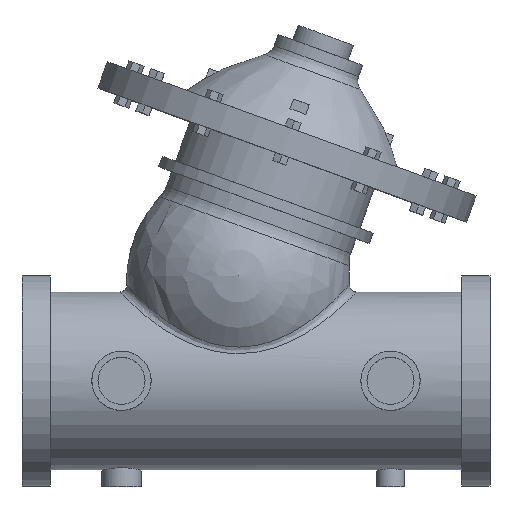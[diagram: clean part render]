
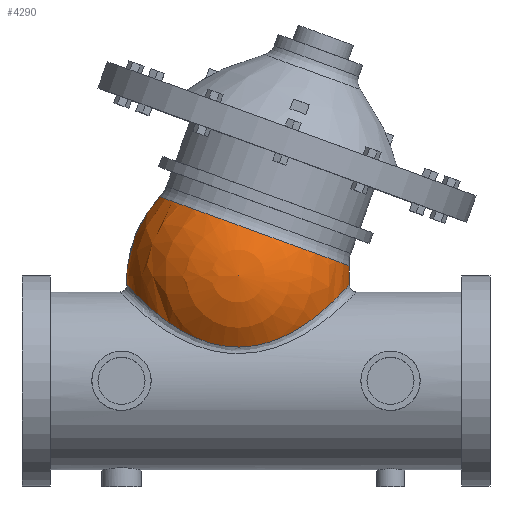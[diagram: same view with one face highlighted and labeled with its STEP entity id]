
A CAD part, top view. The second image highlights one B-rep face of the part: STEP entity #4290.
In plain terms, the highlighted spherical face has radius 50.543 mm.
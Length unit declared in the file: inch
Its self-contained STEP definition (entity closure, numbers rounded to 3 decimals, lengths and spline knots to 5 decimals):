
#1229=FACE_BOUND('',#1543,.T.);
#1230=FACE_BOUND('',#1544,.T.);
#1278=B_SPLINE_CURVE_WITH_KNOTS('',3,(#6001,#6002,#6003,#6004,#6005,#6006,
#6007,#6008,#6009,#6010,#6011,#6012,#6013,#6014,#6015,#6016,#6017,#6018,
#6019,#6020,#6021,#6022,#6023,#6024,#6025,#6026,#6027,#6028,#6029),
 .UNSPECIFIED.,.T.,.F.,(4,1,1,1,1,1,1,1,1,1,1,1,1,1,1,1,1,1,1,1,1,1,1,1,
1,1,4),(0.,1.08274,2.16549,4.33098,5.77464,
6.85738,7.21829,7.94012,8.66195,10.10561,
11.54927,12.99293,14.43659,15.88025,17.32391,
18.04574,18.76757,20.21123,20.93305,21.65488,
22.73763,23.82037,24.90312,25.98586,28.15135,
29.23409,30.31684),.UNSPECIFIED.);
#1307=SPHERICAL_SURFACE('',#4549,1.98987);
#1309=FACE_OUTER_BOUND('',#1542,.T.);
#1542=EDGE_LOOP('',(#2891,#2892));
#1543=EDGE_LOOP('',(#2893));
#1544=EDGE_LOOP('',(#2894,#2895));
#1823=CIRCLE('',#4543,1.79817);
#1828=CIRCLE('',#4548,1.79817);
#1829=CIRCLE('',#4550,1.98987);
#1900=VERTEX_POINT('',#5985);
#1901=VERTEX_POINT('',#5986);
#1905=VERTEX_POINT('',#5997);
#1906=VERTEX_POINT('',#5998);
#1907=VERTEX_POINT('',#6000);
#2300=EDGE_CURVE('',#1900,#1901,#1823,.T.);
#2305=EDGE_CURVE('',#1901,#1900,#1828,.T.);
#2306=EDGE_CURVE('',#1905,#1906,#1829,.T.);
#2307=EDGE_CURVE('',#1907,#1907,#1278,.T.);
#2891=ORIENTED_EDGE('',*,*,#2306,.T.);
#2892=ORIENTED_EDGE('',*,*,#2306,.F.);
#2893=ORIENTED_EDGE('',*,*,#2307,.F.);
#2894=ORIENTED_EDGE('',*,*,#2300,.F.);
#2895=ORIENTED_EDGE('',*,*,#2305,.F.);
#4290=ADVANCED_FACE('',(#1309,#1229,#1230),#1307,.T.);
#4543=AXIS2_PLACEMENT_3D('',#5987,#4867,#4868);
#4548=AXIS2_PLACEMENT_3D('',#5995,#4877,#4878);
#4549=AXIS2_PLACEMENT_3D('',#5996,#4879,#4880);
#4550=AXIS2_PLACEMENT_3D('',#5999,#4881,#4882);
#4867=DIRECTION('center_axis',(0.342,0.94,0.));
#4868=DIRECTION('ref_axis',(0.94,-0.342,0.));
#4877=DIRECTION('center_axis',(0.342,0.94,0.));
#4878=DIRECTION('ref_axis',(0.94,-0.342,0.));
#4879=DIRECTION('center_axis',(0.,0.,1.));
#4880=DIRECTION('ref_axis',(1.,0.,0.));
#4881=DIRECTION('center_axis',(0.,-1.,0.));
#4882=DIRECTION('ref_axis',(-1.,0.,0.));
#5985=CARTESIAN_POINT('',(-1.71769,3.28565,0.));
#5986=CARTESIAN_POINT('',(-0.02797,2.67064,-1.79817));
#5987=CARTESIAN_POINT('Origin',(-0.02797,2.67064,0.));
#5995=CARTESIAN_POINT('Origin',(-0.02797,2.67064,0.));
#5996=CARTESIAN_POINT('Origin',(-0.31942,1.86987,0.));
#5997=CARTESIAN_POINT('',(-0.31942,1.86987,1.98987));
#5998=CARTESIAN_POINT('',(-0.31942,1.86987,-1.98987));
#5999=CARTESIAN_POINT('Origin',(-0.31942,1.86987,0.));
#6000=CARTESIAN_POINT('',(-0.31942,0.60273,1.53426));
#6001=CARTESIAN_POINT('Ctrl Pts',(-0.31942,0.60273,
1.53426));
#6002=CARTESIAN_POINT('Ctrl Pts',(-0.46829,0.60273,
1.53426));
#6003=CARTESIAN_POINT('Ctrl Pts',(-0.76597,0.64151,
1.52242));
#6004=CARTESIAN_POINT('Ctrl Pts',(-1.32124,0.85213,1.44182));
#6005=CARTESIAN_POINT('Ctrl Pts',(-1.82166,1.22404,1.21628));
#6006=CARTESIAN_POINT('Ctrl Pts',(-2.15745,1.5594,0.76034));
#6007=CARTESIAN_POINT('Ctrl Pts',(-2.26939,1.68318,0.39331));
#6008=CARTESIAN_POINT('Ctrl Pts',(-2.30577,1.72402,0.09996));
#6009=CARTESIAN_POINT('Ctrl Pts',(-2.30579,1.72401,-0.14982));
#6010=CARTESIAN_POINT('Ctrl Pts',(-2.24101,1.65139,-0.53835));
#6011=CARTESIAN_POINT('Ctrl Pts',(-2.04586,1.44097,-0.95744));
#6012=CARTESIAN_POINT('Ctrl Pts',(-1.67075,1.1041,-1.29114));
#6013=CARTESIAN_POINT('Ctrl Pts',(-1.18889,0.79126,-1.46981));
#6014=CARTESIAN_POINT('Ctrl Pts',(-0.62218,0.5948,
-1.5372));
#6015=CARTESIAN_POINT('Ctrl Pts',(-0.01673,0.59474,
-1.53716));
#6016=CARTESIAN_POINT('Ctrl Pts',(0.45558,0.75852,-1.48108));
#6017=CARTESIAN_POINT('Ctrl Pts',(0.79089,0.94766,-1.38044));
#6018=CARTESIAN_POINT('Ctrl Pts',(1.09452,1.16032,-1.23569));
#6019=CARTESIAN_POINT('Ctrl Pts',(1.34442,1.38469,-1.01277));
#6020=CARTESIAN_POINT('Ctrl Pts',(1.52417,1.56741,-0.70639));
#6021=CARTESIAN_POINT('Ctrl Pts',(1.63403,1.68646,-0.39679));
#6022=CARTESIAN_POINT('Ctrl Pts',(1.68351,1.7431,-0.00006));
#6023=CARTESIAN_POINT('Ctrl Pts',(1.62787,1.67943,0.44656));
#6024=CARTESIAN_POINT('Ctrl Pts',(1.46944,1.50839,0.8344));
#6025=CARTESIAN_POINT('Ctrl Pts',(1.14437,1.19543,1.23332));
#6026=CARTESIAN_POINT('Ctrl Pts',(0.68238,0.85214,1.44197));
#6027=CARTESIAN_POINT('Ctrl Pts',(0.12715,0.64152,1.52235));
#6028=CARTESIAN_POINT('Ctrl Pts',(-0.17055,0.60273,
1.53426));
#6029=CARTESIAN_POINT('Ctrl Pts',(-0.31942,0.60273,
1.53426));
